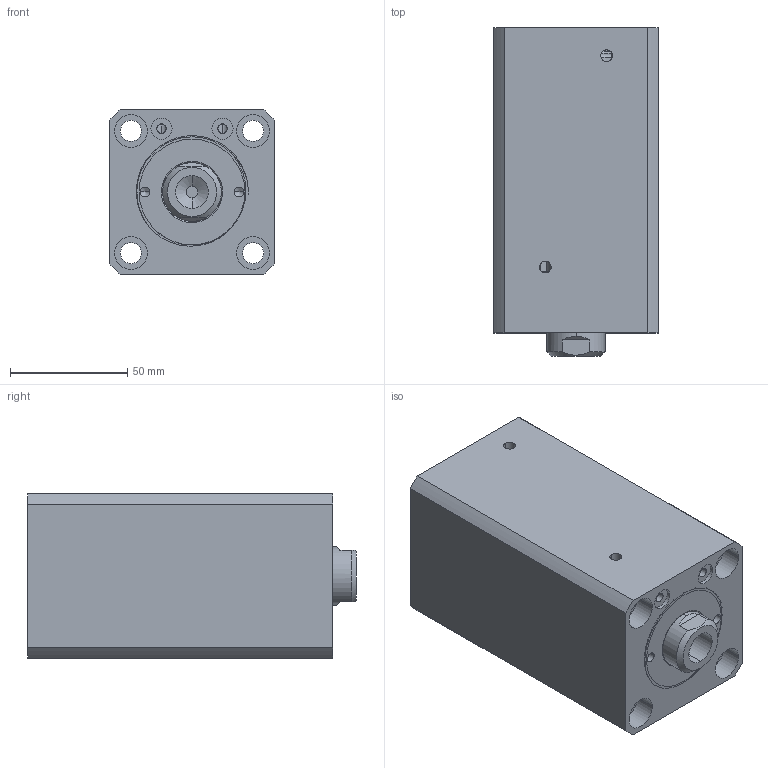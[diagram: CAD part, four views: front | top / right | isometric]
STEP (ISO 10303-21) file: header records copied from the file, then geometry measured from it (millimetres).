
FILE_DESCRIPTION (( 'STEP AP214' ), '1' );
FILE_NAME ('chtb-sdma40x75n_asm.STEP', '2018-06-06T06:33:52', ( 'Windows' ), ( 'Microsoft' ), 'SwSTEP 2.0', 'SolidWorks 2015', '' );
FILE_SCHEMA (( 'AUTOMOTIVE_DESIGN' ));
Length unit declared in the file: millimetre
Products named in the file (4): CHTB-SD40QG; CHTB-SDMA40X75NBT; CHTB-SD40X75NHSG; chtb-sdma40x75n_asm
Assembly tree (3 placements, depth 2):
  chtb-sdma40x75n_asm
    CHTB-SD40X75NHSG
    CHTB-SDMA40X75NBT
    CHTB-SD40QG
Bounding box: 70 x 140 x 70 mm (x, y, z)
Volume: 527136.6 mm3; surface area: 105131.9 mm2
Topology: 3 solids, 3 shells, 157 faces, 413 edges, 274 vertices
Faces by surface type: cylinder 84, plane 36, torus 14, bspline 14, cone 9
Entity records: 10139 total; most frequent: CARTESIAN_POINT 6157, ORIENTED_EDGE 814, DIRECTION 768, EDGE_CURVE 407, AXIS2_PLACEMENT_3D 326, VERTEX_POINT 274, EDGE_LOOP 193, CIRCLE 177
